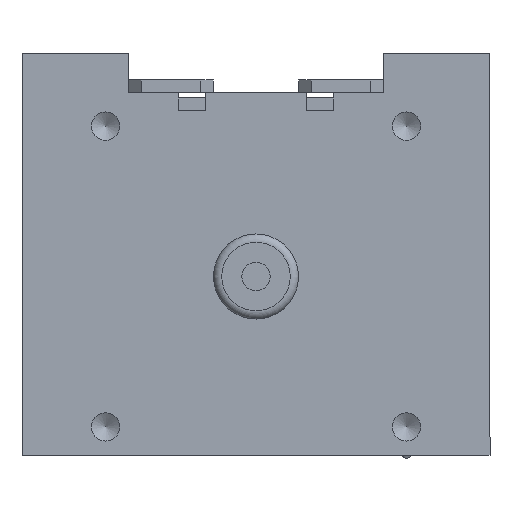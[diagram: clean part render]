
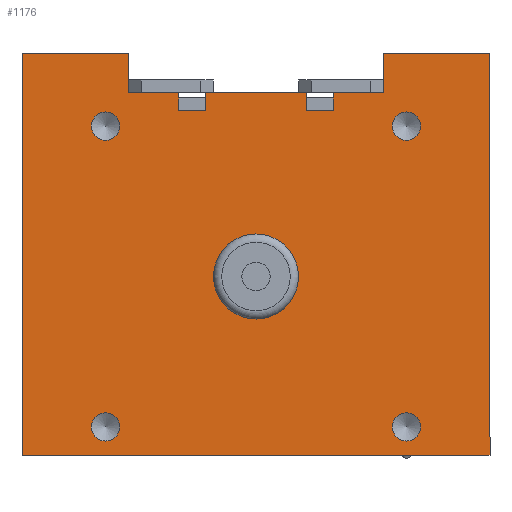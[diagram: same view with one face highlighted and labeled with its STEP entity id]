
A CAD part, front view. The second image highlights one B-rep face of the part: STEP entity #1176.
In plain terms, the highlighted planar face has unit normal (0, -1, 0).
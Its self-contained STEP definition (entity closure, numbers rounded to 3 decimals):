
#970=CARTESIAN_POINT('',(0.,0.,52.));
#971=VERTEX_POINT('',#970);
#972=CARTESIAN_POINT('',(0.,0.0,42.));
#973=DIRECTION('',(0.0,1.0,0.0));
#974=DIRECTION('',(0.0,0.0,-1.0));
#975=AXIS2_PLACEMENT_3D('',#972,#973,#974);
#976=CIRCLE('',#975,10.0);
#977=EDGE_CURVE('',#971,#971,#976,.T.);
#994=CARTESIAN_POINT('',(0.,0.,49.012));
#995=DIRECTION('',(0.0,1.0,0.0));
#996=DIRECTION('',(0.0,0.0,1.0));
#997=AXIS2_PLACEMENT_3D('',#994,#995,#996);
#998=PLANE('',#997);
#999=CARTESIAN_POINT('',(-55.,0.,94.5));
#1000=VERTEX_POINT('',#999);
#1001=CARTESIAN_POINT('',(-55.0,0.,0.));
#1002=VERTEX_POINT('',#1001);
#1003=CARTESIAN_POINT('',(-55.,0.,94.5));
#1004=DIRECTION('',(0.0,0.0,-1.0));
#1005=VECTOR('',#1004,94.5);
#1006=LINE('',#1003,#1005);
#1007=EDGE_CURVE('',#1000,#1002,#1006,.T.);
#1008=ORIENTED_EDGE('',*,*,#1007,.T.);
#1009=CARTESIAN_POINT('',(55.0,0.,0.));
#1010=VERTEX_POINT('',#1009);
#1011=CARTESIAN_POINT('',(-55.0,0.,0.));
#1012=DIRECTION('',(1.0,0.0,0.0));
#1013=VECTOR('',#1012,110.0);
#1014=LINE('',#1011,#1013);
#1015=EDGE_CURVE('',#1002,#1010,#1014,.T.);
#1016=ORIENTED_EDGE('',*,*,#1015,.T.);
#1017=CARTESIAN_POINT('',(55.,0.,94.5));
#1018=VERTEX_POINT('',#1017);
#1019=CARTESIAN_POINT('',(55.0,0.,0.));
#1020=DIRECTION('',(0.0,0.0,1.0));
#1021=VECTOR('',#1020,94.5);
#1022=LINE('',#1019,#1021);
#1023=EDGE_CURVE('',#1010,#1018,#1022,.T.);
#1024=ORIENTED_EDGE('',*,*,#1023,.T.);
#1025=CARTESIAN_POINT('',(30.,0.,94.5));
#1026=VERTEX_POINT('',#1025);
#1027=CARTESIAN_POINT('',(55.,0.,94.5));
#1028=DIRECTION('',(-1.0,0.0,0.0));
#1029=VECTOR('',#1028,25.);
#1030=LINE('',#1027,#1029);
#1031=EDGE_CURVE('',#1018,#1026,#1030,.T.);
#1032=ORIENTED_EDGE('',*,*,#1031,.T.);
#1033=CARTESIAN_POINT('',(30.,0.,85.2));
#1034=VERTEX_POINT('',#1033);
#1035=CARTESIAN_POINT('',(30.,0.,94.5));
#1036=DIRECTION('',(0.0,0.0,-1.0));
#1037=VECTOR('',#1036,9.3);
#1038=LINE('',#1035,#1037);
#1039=EDGE_CURVE('',#1026,#1034,#1038,.T.);
#1040=ORIENTED_EDGE('',*,*,#1039,.T.);
#1041=CARTESIAN_POINT('',(18.2,0.,85.2));
#1042=VERTEX_POINT('',#1041);
#1043=CARTESIAN_POINT('',(30.,0.,85.2));
#1044=DIRECTION('',(-1.0,0.0,0.0));
#1045=VECTOR('',#1044,11.8);
#1046=LINE('',#1043,#1045);
#1047=EDGE_CURVE('',#1034,#1042,#1046,.T.);
#1048=ORIENTED_EDGE('',*,*,#1047,.T.);
#1049=CARTESIAN_POINT('',(18.2,0.,81.));
#1050=VERTEX_POINT('',#1049);
#1051=CARTESIAN_POINT('',(18.2,0.,85.2));
#1052=DIRECTION('',(0.0,0.0,-1.0));
#1053=VECTOR('',#1052,4.2);
#1054=LINE('',#1051,#1053);
#1055=EDGE_CURVE('',#1042,#1050,#1054,.T.);
#1056=ORIENTED_EDGE('',*,*,#1055,.T.);
#1057=CARTESIAN_POINT('',(11.8,0.,81.));
#1058=VERTEX_POINT('',#1057);
#1059=CARTESIAN_POINT('',(18.2,0.,81.));
#1060=DIRECTION('',(-1.0,0.0,0.0));
#1061=VECTOR('',#1060,6.4);
#1062=LINE('',#1059,#1061);
#1063=EDGE_CURVE('',#1050,#1058,#1062,.T.);
#1064=ORIENTED_EDGE('',*,*,#1063,.T.);
#1065=CARTESIAN_POINT('',(11.8,0.,85.2));
#1066=VERTEX_POINT('',#1065);
#1067=CARTESIAN_POINT('',(11.8,0.,81.));
#1068=DIRECTION('',(0.0,0.0,1.0));
#1069=VECTOR('',#1068,4.2);
#1070=LINE('',#1067,#1069);
#1071=EDGE_CURVE('',#1058,#1066,#1070,.T.);
#1072=ORIENTED_EDGE('',*,*,#1071,.T.);
#1073=CARTESIAN_POINT('',(-11.8,0.,85.2));
#1074=VERTEX_POINT('',#1073);
#1075=CARTESIAN_POINT('',(11.8,0.,85.2));
#1076=DIRECTION('',(-1.0,0.0,0.0));
#1077=VECTOR('',#1076,23.6);
#1078=LINE('',#1075,#1077);
#1079=EDGE_CURVE('',#1066,#1074,#1078,.T.);
#1080=ORIENTED_EDGE('',*,*,#1079,.T.);
#1081=CARTESIAN_POINT('',(-11.8,0.,81.0));
#1082=VERTEX_POINT('',#1081);
#1083=CARTESIAN_POINT('',(-11.8,0.,85.2));
#1084=DIRECTION('',(0.0,0.0,-1.0));
#1085=VECTOR('',#1084,4.2);
#1086=LINE('',#1083,#1085);
#1087=EDGE_CURVE('',#1074,#1082,#1086,.T.);
#1088=ORIENTED_EDGE('',*,*,#1087,.T.);
#1089=CARTESIAN_POINT('',(-18.2,0.,81.));
#1090=VERTEX_POINT('',#1089);
#1091=CARTESIAN_POINT('',(-11.8,0.,81.0));
#1092=DIRECTION('',(-1.0,0.0,0.0));
#1093=VECTOR('',#1092,6.4);
#1094=LINE('',#1091,#1093);
#1095=EDGE_CURVE('',#1082,#1090,#1094,.T.);
#1096=ORIENTED_EDGE('',*,*,#1095,.T.);
#1097=CARTESIAN_POINT('',(-18.2,0.,85.2));
#1098=VERTEX_POINT('',#1097);
#1099=CARTESIAN_POINT('',(-18.2,0.,81.));
#1100=DIRECTION('',(0.0,0.0,1.0));
#1101=VECTOR('',#1100,4.2);
#1102=LINE('',#1099,#1101);
#1103=EDGE_CURVE('',#1090,#1098,#1102,.T.);
#1104=ORIENTED_EDGE('',*,*,#1103,.T.);
#1105=CARTESIAN_POINT('',(-30.,0.,85.2));
#1106=VERTEX_POINT('',#1105);
#1107=CARTESIAN_POINT('',(-18.2,0.,85.2));
#1108=DIRECTION('',(-1.0,0.0,0.0));
#1109=VECTOR('',#1108,11.8);
#1110=LINE('',#1107,#1109);
#1111=EDGE_CURVE('',#1098,#1106,#1110,.T.);
#1112=ORIENTED_EDGE('',*,*,#1111,.T.);
#1113=CARTESIAN_POINT('',(-30.,0.,94.5));
#1114=VERTEX_POINT('',#1113);
#1115=CARTESIAN_POINT('',(-30.,0.,85.2));
#1116=DIRECTION('',(0.0,0.0,1.0));
#1117=VECTOR('',#1116,9.3);
#1118=LINE('',#1115,#1117);
#1119=EDGE_CURVE('',#1106,#1114,#1118,.T.);
#1120=ORIENTED_EDGE('',*,*,#1119,.T.);
#1121=CARTESIAN_POINT('',(-30.,0.,94.5));
#1122=DIRECTION('',(-1.0,0.0,0.0));
#1123=VECTOR('',#1122,25.);
#1124=LINE('',#1121,#1123);
#1125=EDGE_CURVE('',#1114,#1000,#1124,.T.);
#1126=ORIENTED_EDGE('',*,*,#1125,.T.);
#1127=EDGE_LOOP('',(#1008,#1016,#1024,#1032,#1040,#1048,#1056,#1064,#1072,#1080,#1088,#1096,#1104,#1112,#1120,#1126));
#1128=FACE_OUTER_BOUND('',#1127,.T.);
#1129=CARTESIAN_POINT('',(35.355,0.,3.321));
#1130=VERTEX_POINT('',#1129);
#1131=CARTESIAN_POINT('',(35.355,0.,6.645));
#1132=DIRECTION('',(0.0,1.0,0.0));
#1133=DIRECTION('',(0.0,0.0,-1.0));
#1134=AXIS2_PLACEMENT_3D('',#1131,#1132,#1133);
#1135=CIRCLE('',#1134,3.324);
#1136=EDGE_CURVE('',#1130,#1130,#1135,.T.);
#1137=ORIENTED_EDGE('',*,*,#1136,.T.);
#1138=EDGE_LOOP('',(#1137));
#1139=FACE_BOUND('',#1138,.T.);
#1140=CARTESIAN_POINT('',(35.355,0.,74.032));
#1141=VERTEX_POINT('',#1140);
#1142=CARTESIAN_POINT('',(35.355,0.,77.355));
#1143=DIRECTION('',(0.0,1.0,0.0));
#1144=DIRECTION('',(0.0,0.0,-1.0));
#1145=AXIS2_PLACEMENT_3D('',#1142,#1143,#1144);
#1146=CIRCLE('',#1145,3.324);
#1147=EDGE_CURVE('',#1141,#1141,#1146,.T.);
#1148=ORIENTED_EDGE('',*,*,#1147,.T.);
#1149=EDGE_LOOP('',(#1148));
#1150=FACE_BOUND('',#1149,.T.);
#1151=CARTESIAN_POINT('',(-35.355,0.,74.032));
#1152=VERTEX_POINT('',#1151);
#1153=CARTESIAN_POINT('',(-35.355,0.,77.355));
#1154=DIRECTION('',(0.0,1.0,0.0));
#1155=DIRECTION('',(0.0,0.0,-1.0));
#1156=AXIS2_PLACEMENT_3D('',#1153,#1154,#1155);
#1157=CIRCLE('',#1156,3.324);
#1158=EDGE_CURVE('',#1152,#1152,#1157,.T.);
#1159=ORIENTED_EDGE('',*,*,#1158,.T.);
#1160=EDGE_LOOP('',(#1159));
#1161=FACE_BOUND('',#1160,.T.);
#1162=CARTESIAN_POINT('',(-35.355,0.,3.321));
#1163=VERTEX_POINT('',#1162);
#1164=CARTESIAN_POINT('',(-35.355,0.,6.645));
#1165=DIRECTION('',(0.0,1.0,0.0));
#1166=DIRECTION('',(0.0,0.0,-1.0));
#1167=AXIS2_PLACEMENT_3D('',#1164,#1165,#1166);
#1168=CIRCLE('',#1167,3.324);
#1169=EDGE_CURVE('',#1163,#1163,#1168,.T.);
#1170=ORIENTED_EDGE('',*,*,#1169,.T.);
#1171=EDGE_LOOP('',(#1170));
#1172=FACE_BOUND('',#1171,.T.);
#1173=ORIENTED_EDGE('',*,*,#977,.T.);
#1174=EDGE_LOOP('',(#1173));
#1175=FACE_BOUND('',#1174,.T.);
#1176=ADVANCED_FACE('',(#1128,#1139,#1150,#1161,#1172,#1175),#998,.F.);
